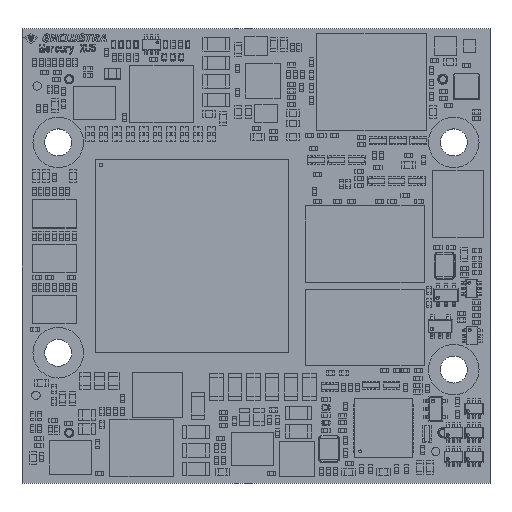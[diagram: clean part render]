
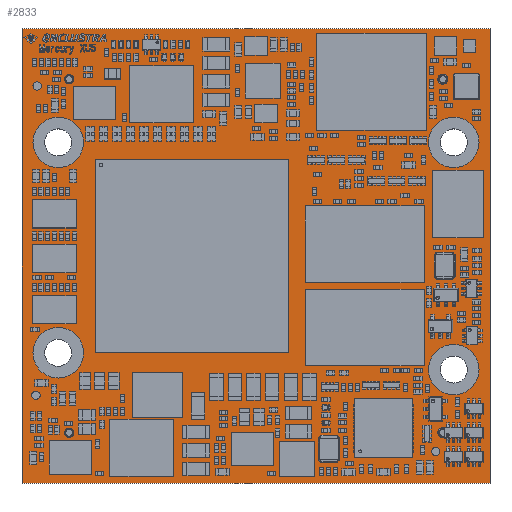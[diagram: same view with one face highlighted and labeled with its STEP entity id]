
A CAD part, top view. The second image highlights one B-rep face of the part: STEP entity #2833.
In plain terms, the highlighted planar face has unit normal (0, 0, 1).
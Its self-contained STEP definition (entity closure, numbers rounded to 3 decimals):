
#2416 = VERTEX_POINT('',#2417);
#2417 = CARTESIAN_POINT('',(0.,0.,1.6));
#2423 = EDGE_CURVE('',#2416,#2424,#2426,.T.);
#2424 = VERTEX_POINT('',#2425);
#2425 = CARTESIAN_POINT('',(55.6,0.,1.6));
#2426 = LINE('',#2427,#2428);
#2427 = CARTESIAN_POINT('',(0.,0.,1.6));
#2428 = VECTOR('',#2429,1.);
#2429 = DIRECTION('',(1.,0.,0.));
#2454 = EDGE_CURVE('',#2424,#2455,#2457,.T.);
#2455 = VERTEX_POINT('',#2456);
#2456 = CARTESIAN_POINT('',(55.6,54.,1.6));
#2457 = LINE('',#2458,#2459);
#2458 = CARTESIAN_POINT('',(55.6,0.,1.6));
#2459 = VECTOR('',#2460,1.);
#2460 = DIRECTION('',(0.,1.,0.));
#2485 = EDGE_CURVE('',#2455,#2486,#2488,.T.);
#2486 = VERTEX_POINT('',#2487);
#2487 = CARTESIAN_POINT('',(0.,54.,1.6));
#2488 = LINE('',#2489,#2490);
#2489 = CARTESIAN_POINT('',(55.6,54.,1.6));
#2490 = VECTOR('',#2491,1.);
#2491 = DIRECTION('',(-1.,0.,0.));
#2516 = EDGE_CURVE('',#2486,#2416,#2517,.T.);
#2517 = LINE('',#2518,#2519);
#2518 = CARTESIAN_POINT('',(0.,54.,1.6));
#2519 = VECTOR('',#2520,1.);
#2520 = DIRECTION('',(0.,-1.,0.));
#2540 = VERTEX_POINT('',#2541);
#2541 = CARTESIAN_POINT('',(5.9,15.5,1.6));
#2547 = EDGE_CURVE('',#2540,#2540,#2548,.T.);
#2548 = CIRCLE('',#2549,1.6);
#2549 = AXIS2_PLACEMENT_3D('',#2550,#2551,#2552);
#2550 = CARTESIAN_POINT('',(4.3,15.5,1.6));
#2551 = DIRECTION('',(0.,0.,1.));
#2552 = DIRECTION('',(1.,0.,0.));
#2573 = VERTEX_POINT('',#2574);
#2574 = CARTESIAN_POINT('',(6.15,6.,1.6));
#2580 = EDGE_CURVE('',#2573,#2573,#2581,.T.);
#2581 = CIRCLE('',#2582,0.55);
#2582 = AXIS2_PLACEMENT_3D('',#2583,#2584,#2585);
#2583 = CARTESIAN_POINT('',(5.6,6.,1.6));
#2584 = DIRECTION('',(0.,0.,1.));
#2585 = DIRECTION('',(1.,0.,0.));
#2606 = VERTEX_POINT('',#2607);
#2607 = CARTESIAN_POINT('',(5.9,40.5,1.6));
#2613 = EDGE_CURVE('',#2606,#2606,#2614,.T.);
#2614 = CIRCLE('',#2615,1.6);
#2615 = AXIS2_PLACEMENT_3D('',#2616,#2617,#2618);
#2616 = CARTESIAN_POINT('',(4.3,40.5,1.6));
#2617 = DIRECTION('',(0.,0.,1.));
#2618 = DIRECTION('',(1.,0.,0.));
#2639 = VERTEX_POINT('',#2640);
#2640 = CARTESIAN_POINT('',(6.15,48.,1.6));
#2646 = EDGE_CURVE('',#2639,#2639,#2647,.T.);
#2647 = CIRCLE('',#2648,0.55);
#2648 = AXIS2_PLACEMENT_3D('',#2649,#2650,#2651);
#2649 = CARTESIAN_POINT('',(5.6,48.,1.6));
#2650 = DIRECTION('',(0.,0.,1.));
#2651 = DIRECTION('',(1.,0.,0.));
#2672 = VERTEX_POINT('',#2673);
#2673 = CARTESIAN_POINT('',(50.6,6.,1.6));
#2679 = EDGE_CURVE('',#2672,#2672,#2680,.T.);
#2680 = CIRCLE('',#2681,0.6);
#2681 = AXIS2_PLACEMENT_3D('',#2682,#2683,#2684);
#2682 = CARTESIAN_POINT('',(50.,6.,1.6));
#2683 = DIRECTION('',(0.,0.,1.));
#2684 = DIRECTION('',(1.,0.,0.));
#2705 = VERTEX_POINT('',#2706);
#2706 = CARTESIAN_POINT('',(52.9,13.5,1.6));
#2712 = EDGE_CURVE('',#2705,#2705,#2713,.T.);
#2713 = CIRCLE('',#2714,1.6);
#2714 = AXIS2_PLACEMENT_3D('',#2715,#2716,#2717);
#2715 = CARTESIAN_POINT('',(51.3,13.5,1.6));
#2716 = DIRECTION('',(0.,0.,1.));
#2717 = DIRECTION('',(1.,0.,0.));
#2738 = VERTEX_POINT('',#2739);
#2739 = CARTESIAN_POINT('',(50.6,48.,1.6));
#2745 = EDGE_CURVE('',#2738,#2738,#2746,.T.);
#2746 = CIRCLE('',#2747,0.6);
#2747 = AXIS2_PLACEMENT_3D('',#2748,#2749,#2750);
#2748 = CARTESIAN_POINT('',(50.,48.,1.6));
#2749 = DIRECTION('',(0.,0.,1.));
#2750 = DIRECTION('',(1.,0.,0.));
#2771 = VERTEX_POINT('',#2772);
#2772 = CARTESIAN_POINT('',(52.9,40.5,1.6));
#2778 = EDGE_CURVE('',#2771,#2771,#2779,.T.);
#2779 = CIRCLE('',#2780,1.6);
#2780 = AXIS2_PLACEMENT_3D('',#2781,#2782,#2783);
#2781 = CARTESIAN_POINT('',(51.3,40.5,1.6));
#2782 = DIRECTION('',(0.,0.,1.));
#2783 = DIRECTION('',(1.,0.,0.));
#2833 = ADVANCED_FACE('',(#2834,#2840,#2843,#2846,#2849,#2852,#2855,
    #2858,#2861),#2864,.F.);
#2834 = FACE_BOUND('',#2835,.T.);
#2835 = EDGE_LOOP('',(#2836,#2837,#2838,#2839));
#2836 = ORIENTED_EDGE('',*,*,#2423,.T.);
#2837 = ORIENTED_EDGE('',*,*,#2454,.T.);
#2838 = ORIENTED_EDGE('',*,*,#2485,.T.);
#2839 = ORIENTED_EDGE('',*,*,#2516,.T.);
#2840 = FACE_BOUND('',#2841,.F.);
#2841 = EDGE_LOOP('',(#2842));
#2842 = ORIENTED_EDGE('',*,*,#2547,.T.);
#2843 = FACE_BOUND('',#2844,.F.);
#2844 = EDGE_LOOP('',(#2845));
#2845 = ORIENTED_EDGE('',*,*,#2580,.T.);
#2846 = FACE_BOUND('',#2847,.F.);
#2847 = EDGE_LOOP('',(#2848));
#2848 = ORIENTED_EDGE('',*,*,#2613,.T.);
#2849 = FACE_BOUND('',#2850,.F.);
#2850 = EDGE_LOOP('',(#2851));
#2851 = ORIENTED_EDGE('',*,*,#2646,.T.);
#2852 = FACE_BOUND('',#2853,.F.);
#2853 = EDGE_LOOP('',(#2854));
#2854 = ORIENTED_EDGE('',*,*,#2679,.T.);
#2855 = FACE_BOUND('',#2856,.F.);
#2856 = EDGE_LOOP('',(#2857));
#2857 = ORIENTED_EDGE('',*,*,#2712,.T.);
#2858 = FACE_BOUND('',#2859,.F.);
#2859 = EDGE_LOOP('',(#2860));
#2860 = ORIENTED_EDGE('',*,*,#2745,.T.);
#2861 = FACE_BOUND('',#2862,.F.);
#2862 = EDGE_LOOP('',(#2863));
#2863 = ORIENTED_EDGE('',*,*,#2778,.T.);
#2864 = PLANE('',#2865);
#2865 = AXIS2_PLACEMENT_3D('',#2866,#2867,#2868);
#2866 = CARTESIAN_POINT('',(0.,0.,1.6));
#2867 = DIRECTION('',(0.,0.,-1.));
#2868 = DIRECTION('',(-1.,0.,0.));
